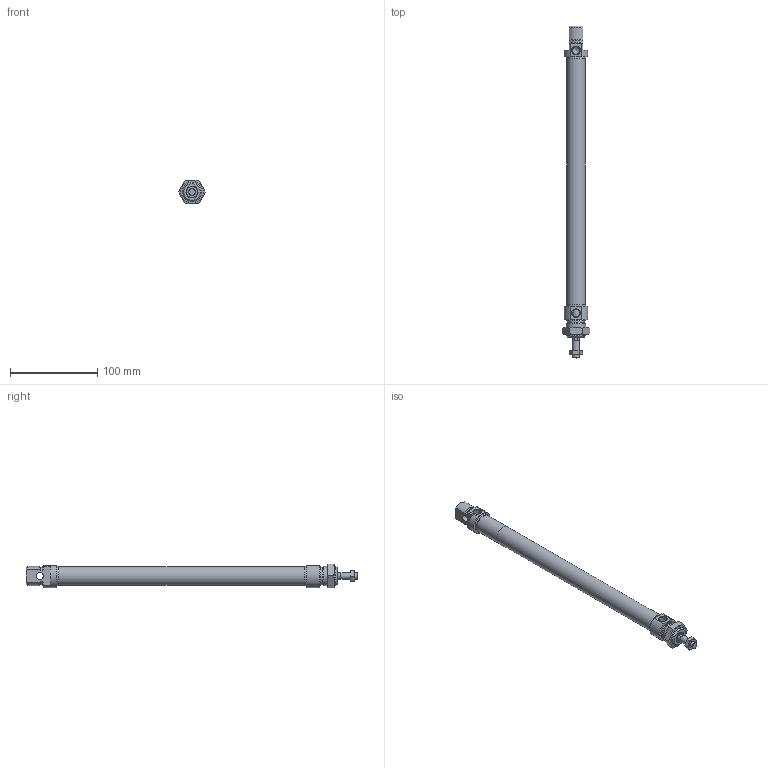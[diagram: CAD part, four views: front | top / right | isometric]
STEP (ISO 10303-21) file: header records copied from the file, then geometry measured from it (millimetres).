
FILE_DESCRIPTION(/* description */ ('Unknown'),/* implementation_level */ '2;1');
FILE_NAME(/* name */ 'RIM 20_250',/* time_stamp */ '2024-08-27T08:51:31+02:00',/* author */ ('Unknown'),/* organization */ ('Unknown'),/* preprocessor_version */ 'ST-DEVELOPER v16.7',/* originating_system */ 'Solid Edge',/* authorisation */ 'Unknown');
FILE_SCHEMA (('AUTOMOTIVE_DESIGN {1 0 10303 214 3 1 1}'));
Length unit declared in the file: millimetre
Products named in the file (7): RIM 20_250; Kit_2; Profilrohr; Kolbenstange; Kit_1; Mutter_1; Mutter_2
Assembly tree (6 placements, depth 2):
  RIM 20_250
    Kit_2
    Profilrohr
    Kolbenstange
    Kit_1
    Mutter_1
    Mutter_2
Bounding box: 31.18 x 381 x 27 mm (x, y, z)
Volume: 68675.2 mm3; surface area: 58993.7 mm2
Topology: 6 solids, 6 shells, 136 faces, 290 edges, 182 vertices
Faces by surface type: plane 55, cone 42, cylinder 32, torus 7
Full cylindrical faces by diameter (mm): 6.647 x1, 8 x3, 8.5 x1, 8.56 x2, 8.566 x2, 9.1 x1, 12 x1, 12.1 x1, 14.1 x1, 14.2 x1, 19.7 x1, 20 x2, 20.376 x1, 21.27 x1, 22 x2, 22.2 x2
Entity records: 4346 total; most frequent: CARTESIAN_POINT 664, DIRECTION 578, ORIENTED_EDGE 448, AXIS2_PLACEMENT_3D 259, EDGE_CURVE 224, FACE_BOUND 215, EDGE_LOOP 214, VERTEX_POINT 171
